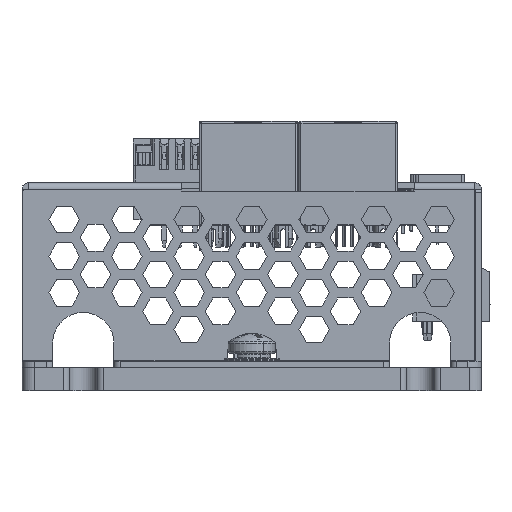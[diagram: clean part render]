
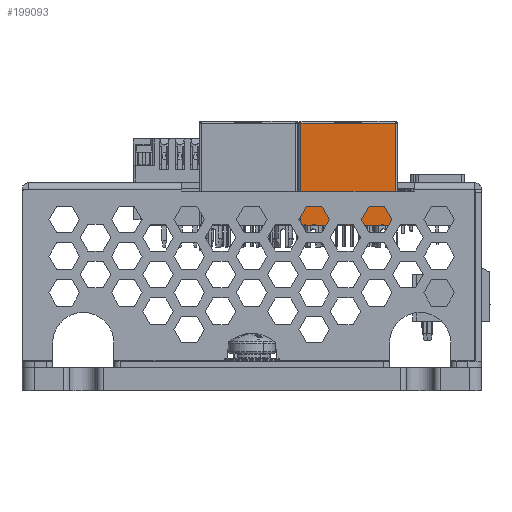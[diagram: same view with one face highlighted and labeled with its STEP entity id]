
A CAD part, left-side view. The second image highlights one B-rep face of the part: STEP entity #199093.
In plain terms, the highlighted planar face has unit normal (-1, 0, 0) as drawn and (0, 0, 1) by its records, which use the part's own axes.
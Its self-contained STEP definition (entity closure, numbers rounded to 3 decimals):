
#2324 = ORIENTED_EDGE ( 'NONE', *, *, #197569, .T. ) ;
#2464 = ORIENTED_EDGE ( 'NONE', *, *, #66811, .T. ) ;
#4512 = LINE ( 'NONE', #193294, #123628 ) ;
#6429 = EDGE_CURVE ( 'NONE', #131831, #57182, #4512, .T. ) ;
#14175 = VERTEX_POINT ( 'NONE', #64817 ) ;
#14491 = ORIENTED_EDGE ( 'NONE', *, *, #6429, .T. ) ;
#27316 = DIRECTION ( 'NONE',  ( 1., 0., 0. ) ) ;
#30498 = CARTESIAN_POINT ( 'NONE',  ( 5.6, 0.024, 8.425 ) ) ;
#34661 = LINE ( 'NONE', #125702, #46803 ) ;
#36672 = FACE_OUTER_BOUND ( 'NONE', #140749, .T. ) ;
#37265 = CARTESIAN_POINT ( 'NONE',  ( -8., 0.124, 8.425 ) ) ;
#46803 = VECTOR ( 'NONE', #154252, 1000. ) ;
#48648 = VECTOR ( 'NONE', #139153, 1000. ) ;
#56630 = CARTESIAN_POINT ( 'NONE',  ( -8., 0.8, 8.425 ) ) ;
#57182 = VERTEX_POINT ( 'NONE', #136948 ) ;
#58618 = DIRECTION ( 'NONE',  ( -1., 0., 0. ) ) ;
#61567 = VERTEX_POINT ( 'NONE', #182402 ) ;
#64817 = CARTESIAN_POINT ( 'NONE',  ( 5.829, 0.124, 8.425 ) ) ;
#65488 = DIRECTION ( 'NONE',  ( 1., 0., 0. ) ) ;
#66811 = EDGE_CURVE ( 'NONE', #86011, #61567, #119078, .T. ) ;
#73737 = AXIS2_PLACEMENT_3D ( 'NONE', #168695, #75678, #65488 ) ;
#74108 = CARTESIAN_POINT ( 'NONE',  ( -5.829, 0.124, 8.425 ) ) ;
#75468 = VECTOR ( 'NONE', #58618, 1000. ) ;
#75678 = DIRECTION ( 'NONE',  ( 0., 0., -1. ) ) ;
#76392 = ORIENTED_EDGE ( 'NONE', *, *, #173609, .T. ) ;
#81767 = CARTESIAN_POINT ( 'NONE',  ( 5.371, 0.124, 8.425 ) ) ;
#83620 = LINE ( 'NONE', #37265, #112647 ) ;
#86011 = VERTEX_POINT ( 'NONE', #98876 ) ;
#87797 = CIRCLE ( 'NONE', #173472, 0.25 ) ;
#93720 = DIRECTION ( 'NONE',  ( 0., 0., -1. ) ) ;
#98876 = CARTESIAN_POINT ( 'NONE',  ( 7.7, 0.124, 8.425 ) ) ;
#99002 = DIRECTION ( 'NONE',  ( 0., -1., 0. ) ) ;
#101075 = EDGE_CURVE ( 'NONE', #61567, #131831, #104584, .T. ) ;
#104224 = PLANE ( 'NONE',  #120127 ) ;
#104584 = LINE ( 'NONE', #106167, #75468 ) ;
#105379 = CARTESIAN_POINT ( 'NONE',  ( -7.7, 16.75, 8.425 ) ) ;
#106167 = CARTESIAN_POINT ( 'NONE',  ( -8., 16.75, 8.425 ) ) ;
#112647 = VECTOR ( 'NONE', #192767, 1000. ) ;
#112814 = EDGE_CURVE ( 'NONE', #146967, #146037, #83620, .T. ) ;
#119078 = LINE ( 'NONE', #180143, #201728 ) ;
#120127 = AXIS2_PLACEMENT_3D ( 'NONE', #56630, #152274, #27316 ) ;
#120578 = EDGE_CURVE ( 'NONE', #146037, #14175, #87797, .T. ) ;
#123628 = VECTOR ( 'NONE', #99002, 1000. ) ;
#125702 = CARTESIAN_POINT ( 'NONE',  ( -8., 0.124, 8.425 ) ) ;
#131831 = VERTEX_POINT ( 'NONE', #105379 ) ;
#136515 = VERTEX_POINT ( 'NONE', #74108 ) ;
#136948 = CARTESIAN_POINT ( 'NONE',  ( -7.7, 0.124, 8.425 ) ) ;
#139153 = DIRECTION ( 'NONE',  ( 1., 0., 0. ) ) ;
#140749 = EDGE_LOOP ( 'NONE', ( #14491, #2324, #76392, #195765, #149756, #141185, #2464, #174299 ) ) ;
#141185 = ORIENTED_EDGE ( 'NONE', *, *, #148977, .T. ) ;
#146037 = VERTEX_POINT ( 'NONE', #81767 ) ;
#146967 = VERTEX_POINT ( 'NONE', #198247 ) ;
#148977 = EDGE_CURVE ( 'NONE', #14175, #86011, #160173, .T. ) ;
#149756 = ORIENTED_EDGE ( 'NONE', *, *, #120578, .T. ) ;
#152274 = DIRECTION ( 'NONE',  ( 0., 0., 1. ) ) ;
#154252 = DIRECTION ( 'NONE',  ( 1., 0., 0. ) ) ;
#160173 = LINE ( 'NONE', #199088, #48648 ) ;
#166511 = DIRECTION ( 'NONE',  ( 0., 1., 0. ) ) ;
#167019 = CIRCLE ( 'NONE', #73737, 0.25 ) ;
#168695 = CARTESIAN_POINT ( 'NONE',  ( -5.6, 0.024, 8.425 ) ) ;
#173472 = AXIS2_PLACEMENT_3D ( 'NONE', #30498, #93720, #201703 ) ;
#173609 = EDGE_CURVE ( 'NONE', #136515, #146967, #167019, .T. ) ;
#174299 = ORIENTED_EDGE ( 'NONE', *, *, #101075, .T. ) ;
#180143 = CARTESIAN_POINT ( 'NONE',  ( 7.7, 0.8, 8.425 ) ) ;
#182402 = CARTESIAN_POINT ( 'NONE',  ( 7.7, 16.75, 8.425 ) ) ;
#192767 = DIRECTION ( 'NONE',  ( 1., 0., 0. ) ) ;
#193294 = CARTESIAN_POINT ( 'NONE',  ( -7.7, 0.8, 8.425 ) ) ;
#195765 = ORIENTED_EDGE ( 'NONE', *, *, #112814, .T. ) ;
#197569 = EDGE_CURVE ( 'NONE', #57182, #136515, #34661, .T. ) ;
#198247 = CARTESIAN_POINT ( 'NONE',  ( -5.371, 0.124, 8.425 ) ) ;
#199088 = CARTESIAN_POINT ( 'NONE',  ( -8., 0.124, 8.425 ) ) ;
#199093 = ADVANCED_FACE ( 'NONE', ( #36672 ), #104224, .T. ) ;
#201703 = DIRECTION ( 'NONE',  ( 1., 0., 0. ) ) ;
#201728 = VECTOR ( 'NONE', #166511, 1000. ) ;
